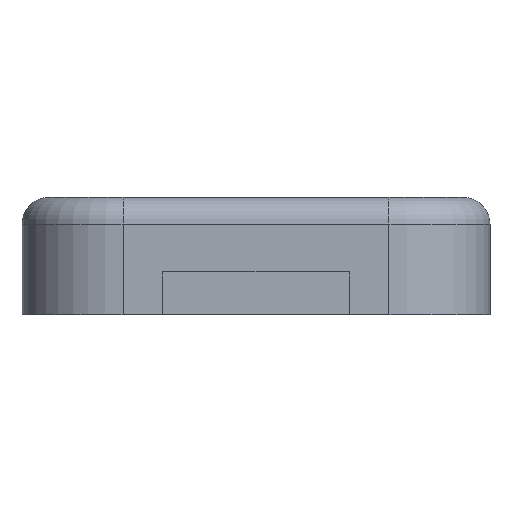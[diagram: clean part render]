
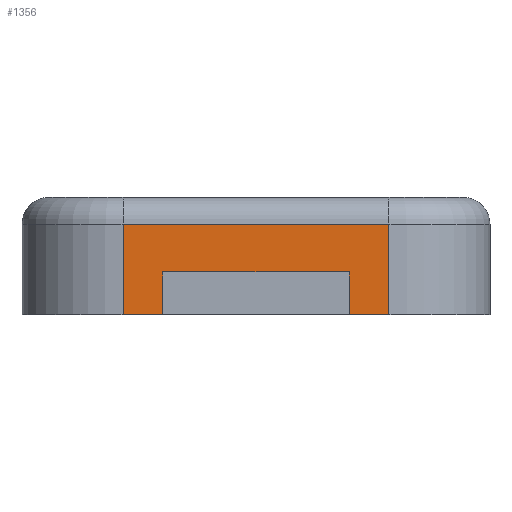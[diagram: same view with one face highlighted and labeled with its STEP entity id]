
A CAD part, front view. The second image highlights one B-rep face of the part: STEP entity #1356.
In plain terms, the highlighted planar face has unit normal (0, -1, 0).
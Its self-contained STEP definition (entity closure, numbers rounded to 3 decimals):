
#44 = CYLINDRICAL_SURFACE('',#45,19.);
#45 = AXIS2_PLACEMENT_3D('',#46,#47,#48);
#46 = CARTESIAN_POINT('',(-25.,-49.,-14.));
#47 = DIRECTION('',(0.,0.,1.));
#48 = DIRECTION('',(-1.,-0.,0.));
#71 = PLANE('',#72);
#72 = AXIS2_PLACEMENT_3D('',#73,#74,#75);
#73 = CARTESIAN_POINT('',(-100.,-110.,-8.));
#74 = DIRECTION('',(0.,0.,1.));
#75 = DIRECTION('',(1.,0.,0.));
#205 = VERTEX_POINT('',#206);
#206 = CARTESIAN_POINT('',(-25.,-68.,-8.));
#228 = EDGE_CURVE('',#205,#229,#231,.T.);
#229 = VERTEX_POINT('',#230);
#230 = CARTESIAN_POINT('',(-25.,-68.,9.));
#231 = SURFACE_CURVE('',#232,(#236,#243),.PCURVE_S1.);
#232 = LINE('',#233,#234);
#233 = CARTESIAN_POINT('',(-25.,-68.,-14.));
#234 = VECTOR('',#235,1.);
#235 = DIRECTION('',(0.,0.,1.));
#236 = PCURVE('',#44,#237);
#237 = DEFINITIONAL_REPRESENTATION('',(#238),#242);
#238 = LINE('',#239,#240);
#239 = CARTESIAN_POINT('',(1.571,0.));
#240 = VECTOR('',#241,1.);
#241 = DIRECTION('',(0.,1.));
#242 = ( GEOMETRIC_REPRESENTATION_CONTEXT(2) 
PARAMETRIC_REPRESENTATION_CONTEXT() REPRESENTATION_CONTEXT('2D SPACE',''
  ) );
#243 = PCURVE('',#244,#249);
#244 = PLANE('',#245);
#245 = AXIS2_PLACEMENT_3D('',#246,#247,#248);
#246 = CARTESIAN_POINT('',(-44.,-68.,-14.));
#247 = DIRECTION('',(0.,1.,0.));
#248 = DIRECTION('',(0.,0.,1.));
#249 = DEFINITIONAL_REPRESENTATION('',(#250),#254);
#250 = LINE('',#251,#252);
#251 = CARTESIAN_POINT('',(0.,19.));
#252 = VECTOR('',#253,1.);
#253 = DIRECTION('',(1.,0.));
#254 = ( GEOMETRIC_REPRESENTATION_CONTEXT(2) 
PARAMETRIC_REPRESENTATION_CONTEXT() REPRESENTATION_CONTEXT('2D SPACE',''
  ) );
#725 = EDGE_CURVE('',#205,#726,#728,.T.);
#726 = VERTEX_POINT('',#727);
#727 = CARTESIAN_POINT('',(-17.5,-68.,-8.));
#728 = SURFACE_CURVE('',#729,(#733,#739),.PCURVE_S1.);
#729 = LINE('',#730,#731);
#730 = CARTESIAN_POINT('',(-72.,-68.,-8.));
#731 = VECTOR('',#732,1.);
#732 = DIRECTION('',(1.,0.,0.));
#733 = PCURVE('',#71,#734);
#734 = DEFINITIONAL_REPRESENTATION('',(#735),#738);
#735 = B_SPLINE_CURVE_WITH_KNOTS('',1,(#736,#737),.UNSPECIFIED.,.F.,.F.,
  (2,2),(47.,97.),.PIECEWISE_BEZIER_KNOTS.);
#736 = CARTESIAN_POINT('',(75.,42.));
#737 = CARTESIAN_POINT('',(125.,42.));
#738 = ( GEOMETRIC_REPRESENTATION_CONTEXT(2) 
PARAMETRIC_REPRESENTATION_CONTEXT() REPRESENTATION_CONTEXT('2D SPACE',''
  ) );
#739 = PCURVE('',#244,#740);
#740 = DEFINITIONAL_REPRESENTATION('',(#741),#744);
#741 = B_SPLINE_CURVE_WITH_KNOTS('',1,(#742,#743),.UNSPECIFIED.,.F.,.F.,
  (2,2),(47.,97.),.PIECEWISE_BEZIER_KNOTS.);
#742 = CARTESIAN_POINT('',(6.,19.));
#743 = CARTESIAN_POINT('',(6.,69.));
#744 = ( GEOMETRIC_REPRESENTATION_CONTEXT(2) 
PARAMETRIC_REPRESENTATION_CONTEXT() REPRESENTATION_CONTEXT('2D SPACE',''
  ) );
#761 = PLANE('',#762);
#762 = AXIS2_PLACEMENT_3D('',#763,#764,#765);
#763 = CARTESIAN_POINT('',(-17.5,-74.,-12.));
#764 = DIRECTION('',(1.,0.,0.));
#765 = DIRECTION('',(0.,0.,1.));
#1318 = CYLINDRICAL_SURFACE('',#1319,5.);
#1319 = AXIS2_PLACEMENT_3D('',#1320,#1321,#1322);
#1320 = CARTESIAN_POINT('',(25.,-63.,9.));
#1321 = DIRECTION('',(-1.,-0.,-0.));
#1322 = DIRECTION('',(0.,-1.,0.));
#1356 = ADVANCED_FACE('',(#1357),#244,.F.);
#1357 = FACE_BOUND('',#1358,.F.);
#1358 = EDGE_LOOP('',(#1359,#1360,#1361,#1384,#1412,#1438,#1464,#1490));
#1359 = ORIENTED_EDGE('',*,*,#725,.F.);
#1360 = ORIENTED_EDGE('',*,*,#228,.T.);
#1361 = ORIENTED_EDGE('',*,*,#1362,.F.);
#1362 = EDGE_CURVE('',#1363,#229,#1365,.T.);
#1363 = VERTEX_POINT('',#1364);
#1364 = CARTESIAN_POINT('',(25.,-68.,9.));
#1365 = SURFACE_CURVE('',#1366,(#1370,#1377),.PCURVE_S1.);
#1366 = LINE('',#1367,#1368);
#1367 = CARTESIAN_POINT('',(25.,-68.,9.));
#1368 = VECTOR('',#1369,1.);
#1369 = DIRECTION('',(-1.,-0.,-0.));
#1370 = PCURVE('',#244,#1371);
#1371 = DEFINITIONAL_REPRESENTATION('',(#1372),#1376);
#1372 = LINE('',#1373,#1374);
#1373 = CARTESIAN_POINT('',(23.,69.));
#1374 = VECTOR('',#1375,1.);
#1375 = DIRECTION('',(-0.,-1.));
#1376 = ( GEOMETRIC_REPRESENTATION_CONTEXT(2) 
PARAMETRIC_REPRESENTATION_CONTEXT() REPRESENTATION_CONTEXT('2D SPACE',''
  ) );
#1377 = PCURVE('',#1318,#1378);
#1378 = DEFINITIONAL_REPRESENTATION('',(#1379),#1383);
#1379 = LINE('',#1380,#1381);
#1380 = CARTESIAN_POINT('',(0.,0.));
#1381 = VECTOR('',#1382,1.);
#1382 = DIRECTION('',(0.,1.));
#1383 = ( GEOMETRIC_REPRESENTATION_CONTEXT(2) 
PARAMETRIC_REPRESENTATION_CONTEXT() REPRESENTATION_CONTEXT('2D SPACE',''
  ) );
#1384 = ORIENTED_EDGE('',*,*,#1385,.F.);
#1385 = EDGE_CURVE('',#1386,#1363,#1388,.T.);
#1386 = VERTEX_POINT('',#1387);
#1387 = CARTESIAN_POINT('',(25.,-68.,-8.));
#1388 = SURFACE_CURVE('',#1389,(#1393,#1400),.PCURVE_S1.);
#1389 = LINE('',#1390,#1391);
#1390 = CARTESIAN_POINT('',(25.,-68.,-14.));
#1391 = VECTOR('',#1392,1.);
#1392 = DIRECTION('',(0.,0.,1.));
#1393 = PCURVE('',#244,#1394);
#1394 = DEFINITIONAL_REPRESENTATION('',(#1395),#1399);
#1395 = LINE('',#1396,#1397);
#1396 = CARTESIAN_POINT('',(0.,69.));
#1397 = VECTOR('',#1398,1.);
#1398 = DIRECTION('',(1.,0.));
#1399 = ( GEOMETRIC_REPRESENTATION_CONTEXT(2) 
PARAMETRIC_REPRESENTATION_CONTEXT() REPRESENTATION_CONTEXT('2D SPACE',''
  ) );
#1400 = PCURVE('',#1401,#1406);
#1401 = CYLINDRICAL_SURFACE('',#1402,19.);
#1402 = AXIS2_PLACEMENT_3D('',#1403,#1404,#1405);
#1403 = CARTESIAN_POINT('',(25.,-49.,-14.));
#1404 = DIRECTION('',(0.,0.,1.));
#1405 = DIRECTION('',(1.,0.,-0.));
#1406 = DEFINITIONAL_REPRESENTATION('',(#1407),#1411);
#1407 = LINE('',#1408,#1409);
#1408 = CARTESIAN_POINT('',(-1.571,0.));
#1409 = VECTOR('',#1410,1.);
#1410 = DIRECTION('',(-0.,1.));
#1411 = ( GEOMETRIC_REPRESENTATION_CONTEXT(2) 
PARAMETRIC_REPRESENTATION_CONTEXT() REPRESENTATION_CONTEXT('2D SPACE',''
  ) );
#1412 = ORIENTED_EDGE('',*,*,#1413,.F.);
#1413 = EDGE_CURVE('',#1414,#1386,#1416,.T.);
#1414 = VERTEX_POINT('',#1415);
#1415 = CARTESIAN_POINT('',(17.5,-68.,-8.));
#1416 = SURFACE_CURVE('',#1417,(#1421,#1427),.PCURVE_S1.);
#1417 = LINE('',#1418,#1419);
#1418 = CARTESIAN_POINT('',(-72.,-68.,-8.));
#1419 = VECTOR('',#1420,1.);
#1420 = DIRECTION('',(1.,0.,0.));
#1421 = PCURVE('',#244,#1422);
#1422 = DEFINITIONAL_REPRESENTATION('',(#1423),#1426);
#1423 = B_SPLINE_CURVE_WITH_KNOTS('',1,(#1424,#1425),.UNSPECIFIED.,.F.,
  .F.,(2,2),(47.,97.),.PIECEWISE_BEZIER_KNOTS.);
#1424 = CARTESIAN_POINT('',(6.,19.));
#1425 = CARTESIAN_POINT('',(6.,69.));
#1426 = ( GEOMETRIC_REPRESENTATION_CONTEXT(2) 
PARAMETRIC_REPRESENTATION_CONTEXT() REPRESENTATION_CONTEXT('2D SPACE',''
  ) );
#1427 = PCURVE('',#1428,#1433);
#1428 = PLANE('',#1429);
#1429 = AXIS2_PLACEMENT_3D('',#1430,#1431,#1432);
#1430 = CARTESIAN_POINT('',(-100.,-110.,-8.));
#1431 = DIRECTION('',(0.,0.,1.));
#1432 = DIRECTION('',(1.,0.,0.));
#1433 = DEFINITIONAL_REPRESENTATION('',(#1434),#1437);
#1434 = B_SPLINE_CURVE_WITH_KNOTS('',1,(#1435,#1436),.UNSPECIFIED.,.F.,
  .F.,(2,2),(47.,97.),.PIECEWISE_BEZIER_KNOTS.);
#1435 = CARTESIAN_POINT('',(75.,42.));
#1436 = CARTESIAN_POINT('',(125.,42.));
#1437 = ( GEOMETRIC_REPRESENTATION_CONTEXT(2) 
PARAMETRIC_REPRESENTATION_CONTEXT() REPRESENTATION_CONTEXT('2D SPACE',''
  ) );
#1438 = ORIENTED_EDGE('',*,*,#1439,.F.);
#1439 = EDGE_CURVE('',#1440,#1414,#1442,.T.);
#1440 = VERTEX_POINT('',#1441);
#1441 = CARTESIAN_POINT('',(17.5,-68.,0.));
#1442 = SURFACE_CURVE('',#1443,(#1447,#1453),.PCURVE_S1.);
#1443 = LINE('',#1444,#1445);
#1444 = CARTESIAN_POINT('',(17.5,-68.,-13.));
#1445 = VECTOR('',#1446,1.);
#1446 = DIRECTION('',(0.,0.,-1.));
#1447 = PCURVE('',#244,#1448);
#1448 = DEFINITIONAL_REPRESENTATION('',(#1449),#1452);
#1449 = B_SPLINE_CURVE_WITH_KNOTS('',1,(#1450,#1451),.UNSPECIFIED.,.F.,
  .F.,(2,2),(-13.,-5.),.PIECEWISE_BEZIER_KNOTS.);
#1450 = CARTESIAN_POINT('',(14.,61.5));
#1451 = CARTESIAN_POINT('',(6.,61.5));
#1452 = ( GEOMETRIC_REPRESENTATION_CONTEXT(2) 
PARAMETRIC_REPRESENTATION_CONTEXT() REPRESENTATION_CONTEXT('2D SPACE',''
  ) );
#1453 = PCURVE('',#1454,#1459);
#1454 = PLANE('',#1455);
#1455 = AXIS2_PLACEMENT_3D('',#1456,#1457,#1458);
#1456 = CARTESIAN_POINT('',(17.5,-74.,-12.));
#1457 = DIRECTION('',(1.,0.,0.));
#1458 = DIRECTION('',(0.,0.,1.));
#1459 = DEFINITIONAL_REPRESENTATION('',(#1460),#1463);
#1460 = B_SPLINE_CURVE_WITH_KNOTS('',1,(#1461,#1462),.UNSPECIFIED.,.F.,
  .F.,(2,2),(-13.,-5.),.PIECEWISE_BEZIER_KNOTS.);
#1461 = CARTESIAN_POINT('',(12.,-6.));
#1462 = CARTESIAN_POINT('',(4.,-6.));
#1463 = ( GEOMETRIC_REPRESENTATION_CONTEXT(2) 
PARAMETRIC_REPRESENTATION_CONTEXT() REPRESENTATION_CONTEXT('2D SPACE',''
  ) );
#1464 = ORIENTED_EDGE('',*,*,#1465,.F.);
#1465 = EDGE_CURVE('',#1466,#1440,#1468,.T.);
#1466 = VERTEX_POINT('',#1467);
#1467 = CARTESIAN_POINT('',(-17.5,-68.,0.));
#1468 = SURFACE_CURVE('',#1469,(#1473,#1479),.PCURVE_S1.);
#1469 = LINE('',#1470,#1471);
#1470 = CARTESIAN_POINT('',(-30.75,-68.,0.));
#1471 = VECTOR('',#1472,1.);
#1472 = DIRECTION('',(1.,0.,0.));
#1473 = PCURVE('',#244,#1474);
#1474 = DEFINITIONAL_REPRESENTATION('',(#1475),#1478);
#1475 = B_SPLINE_CURVE_WITH_KNOTS('',1,(#1476,#1477),.UNSPECIFIED.,.F.,
  .F.,(2,2),(13.25,48.25),.PIECEWISE_BEZIER_KNOTS.);
#1476 = CARTESIAN_POINT('',(14.,26.5));
#1477 = CARTESIAN_POINT('',(14.,61.5));
#1478 = ( GEOMETRIC_REPRESENTATION_CONTEXT(2) 
PARAMETRIC_REPRESENTATION_CONTEXT() REPRESENTATION_CONTEXT('2D SPACE',''
  ) );
#1479 = PCURVE('',#1480,#1485);
#1480 = PLANE('',#1481);
#1481 = AXIS2_PLACEMENT_3D('',#1482,#1483,#1484);
#1482 = CARTESIAN_POINT('',(-17.5,-74.,0.));
#1483 = DIRECTION('',(0.,0.,1.));
#1484 = DIRECTION('',(1.,0.,0.));
#1485 = DEFINITIONAL_REPRESENTATION('',(#1486),#1489);
#1486 = B_SPLINE_CURVE_WITH_KNOTS('',1,(#1487,#1488),.UNSPECIFIED.,.F.,
  .F.,(2,2),(13.25,48.25),.PIECEWISE_BEZIER_KNOTS.);
#1487 = CARTESIAN_POINT('',(0.,6.));
#1488 = CARTESIAN_POINT('',(35.,6.));
#1489 = ( GEOMETRIC_REPRESENTATION_CONTEXT(2) 
PARAMETRIC_REPRESENTATION_CONTEXT() REPRESENTATION_CONTEXT('2D SPACE',''
  ) );
#1490 = ORIENTED_EDGE('',*,*,#1491,.T.);
#1491 = EDGE_CURVE('',#1466,#726,#1492,.T.);
#1492 = SURFACE_CURVE('',#1493,(#1497,#1503),.PCURVE_S1.);
#1493 = LINE('',#1494,#1495);
#1494 = CARTESIAN_POINT('',(-17.5,-68.,-13.));
#1495 = VECTOR('',#1496,1.);
#1496 = DIRECTION('',(0.,0.,-1.));
#1497 = PCURVE('',#244,#1498);
#1498 = DEFINITIONAL_REPRESENTATION('',(#1499),#1502);
#1499 = B_SPLINE_CURVE_WITH_KNOTS('',1,(#1500,#1501),.UNSPECIFIED.,.F.,
  .F.,(2,2),(-13.,-5.),.PIECEWISE_BEZIER_KNOTS.);
#1500 = CARTESIAN_POINT('',(14.,26.5));
#1501 = CARTESIAN_POINT('',(6.,26.5));
#1502 = ( GEOMETRIC_REPRESENTATION_CONTEXT(2) 
PARAMETRIC_REPRESENTATION_CONTEXT() REPRESENTATION_CONTEXT('2D SPACE',''
  ) );
#1503 = PCURVE('',#761,#1504);
#1504 = DEFINITIONAL_REPRESENTATION('',(#1505),#1508);
#1505 = B_SPLINE_CURVE_WITH_KNOTS('',1,(#1506,#1507),.UNSPECIFIED.,.F.,
  .F.,(2,2),(-13.,-5.),.PIECEWISE_BEZIER_KNOTS.);
#1506 = CARTESIAN_POINT('',(12.,-6.));
#1507 = CARTESIAN_POINT('',(4.,-6.));
#1508 = ( GEOMETRIC_REPRESENTATION_CONTEXT(2) 
PARAMETRIC_REPRESENTATION_CONTEXT() REPRESENTATION_CONTEXT('2D SPACE',''
  ) );
